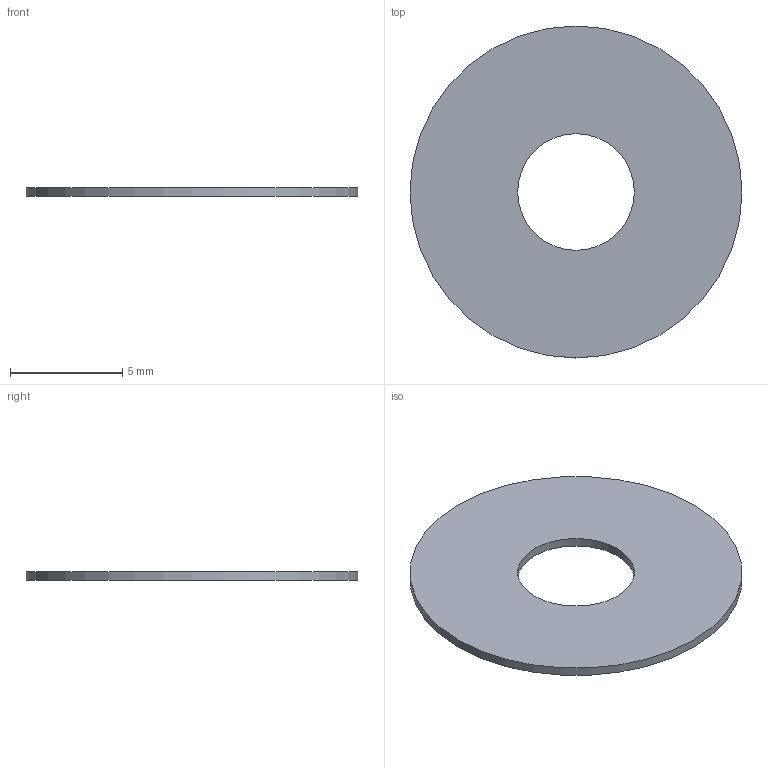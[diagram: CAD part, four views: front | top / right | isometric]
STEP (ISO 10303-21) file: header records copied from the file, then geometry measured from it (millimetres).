
FILE_DESCRIPTION(('Open CASCADE Model'),'2;1');
FILE_NAME('Open CASCADE Shape Model','2026-09-24T17:42:53',('Author'),( 'Open CASCADE'),'Open CASCADE STEP processor 7.8','Open CASCADE 7.8' ,'Unknown');
FILE_SCHEMA(('AUTOMOTIVE_DESIGN { 1 0 10303 214 1 1 1 1 }'));
Length unit declared in the file: millimetre
Products named in the file (1): Open CASCADE STEP translator 7.8 37
Bounding box: 14.8 x 14.8 x 0.4 mm (x, y, z)
Volume: 60.3 mm3; surface area: 326.7 mm2
Topology: 1 solids, 1 shells, 4 faces, 6 edges, 4 vertices
Faces by surface type: cylinder 2, plane 2
Full cylindrical faces by diameter (mm): 5.2 x1, 14.8 x1
Entity records: 186 total; most frequent: DIRECTION 32, CARTESIAN_POINT 27, ORIENTED_EDGE 12, PCURVE 12, DEFINITIONAL_REPRESENTATION 12, LINE 10, VECTOR 10, AXIS2_PLACEMENT_3D 9
